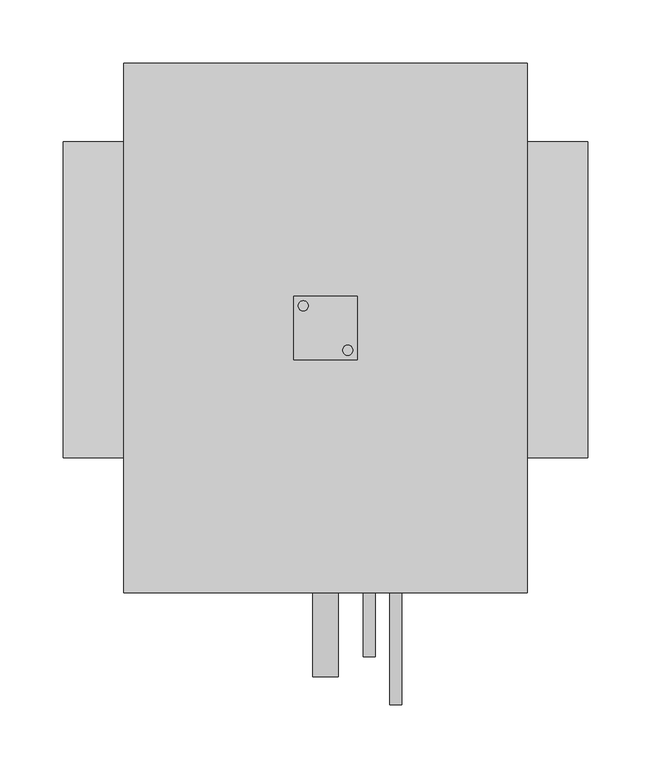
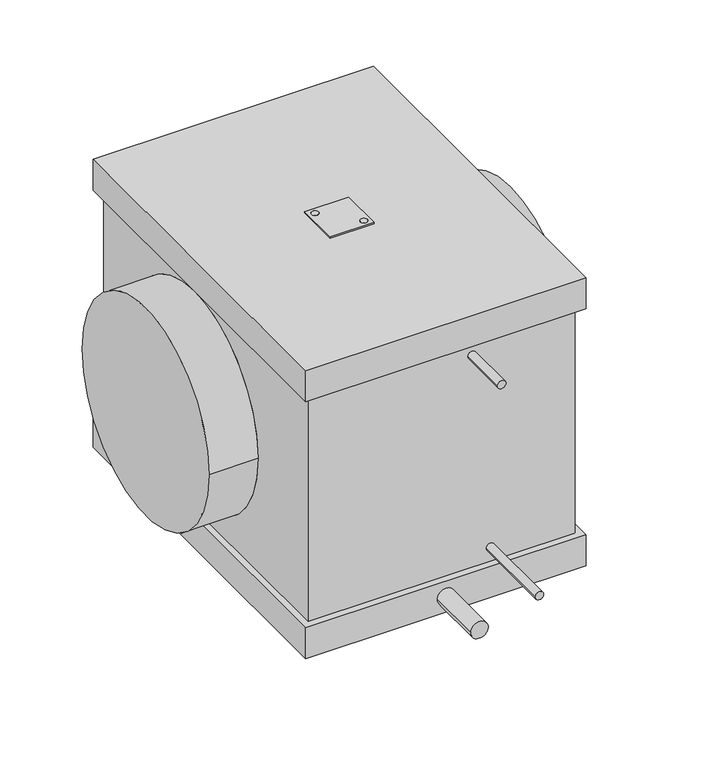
"""IFC4 building model written with IfcOpenShell, lengths in millimetres: proxy geometry, KORF_Охладитель_Фреоновый_Круглый_Левый_KFLO : KFLO 250/2."""

from ifc_helpers import new_model, si_unit, point, frame, frame_2d, origin, place, context, project, spatial, polyline, circle_curve, trimmed, segment, composite_curve, outline, extrude, source, transform, mapped, element, save
from ifc_brep_helpers import plane_surface, cylinder_surface, advanced_brep


def mechanical_equipment_053e3df5(model_context):
    return source(origin(), model_context, "Body", "SolidModel", [
        extrude(outline(composite_curve([segment(trimmed(circle_curve(frame_2d((189.9272934, -4.9254254)), 4.0), [point((185.9272934, -4.9254254))], [point((193.9272934, -4.9254254))], False, "CARTESIAN"), True, "CONTINUOUS"), segment(trimmed(circle_curve(frame_2d((189.9272934, -4.9254254)), 4.0), [point((193.9272934, -4.9254254))], [point((185.9272934, -4.9254254))], False, "CARTESIAN"), True, "CONTINUOUS")], self_intersect=False)), frame((0.0, 0.0, 173.0), z_axis=(0.0, 0.0, 1.0), x_axis=(1.0, 0.0, 0.0)), (0.0, 0.0, 1.0), 2.0),
        extrude(outline(composite_curve([segment(trimmed(circle_curve(frame_2d((225.0727066, -40.0745746)), 4.0), [point((229.0727066, -40.0745746))], [point((221.0727066, -40.0745746))], False, "CARTESIAN"), True, "CONTINUOUS"), segment(trimmed(circle_curve(frame_2d((225.0727066, -40.0745746)), 4.0), [point((221.0727066, -40.0745746))], [point((229.0727066, -40.0745746))], False, "CARTESIAN"), True, "CONTINUOUS")], self_intersect=False)), frame((0.0, 0.0, 173.0), z_axis=(0.0, 0.0, 1.0), x_axis=(1.0, 0.0, 0.0)), (0.0, 0.0, 1.0), 2.0),
        extrude(outline(polyline([(232.5, 2.5), (232.5, -47.5), (182.5, -47.5), (182.5, 2.5), (232.5, 2.5)]), holes=[composite_curve([segment(trimmed(circle_curve(frame_2d((189.9272934, -4.9254254)), 4.0), [point((185.9272934, -4.9254254))], [point((193.9272934, -4.9254254))], True, "CARTESIAN"), True, "CONTINUOUS"), segment(trimmed(circle_curve(frame_2d((189.9272934, -4.9254254)), 4.0), [point((193.9272934, -4.9254254))], [point((185.9272934, -4.9254254))], True, "CARTESIAN"), True, "CONTINUOUS")], self_intersect=False), composite_curve([segment(trimmed(circle_curve(frame_2d((225.0727066, -40.0745746)), 4.0), [point((229.0727066, -40.0745746))], [point((221.0727066, -40.0745746))], True, "CARTESIAN"), True, "CONTINUOUS"), segment(trimmed(circle_curve(frame_2d((225.0727066, -40.0745746)), 4.0), [point((221.0727066, -40.0745746))], [point((229.0727066, -40.0745746))], True, "CARTESIAN"), True, "CONTINUOUS")], self_intersect=False)]), frame((0.0, 0.0, 173.0), z_axis=(0.0, 0.0, 1.0), x_axis=(1.0, 0.0, 0.0)), (0.0, 0.0, 1.0), 2.0),
        advanced_brep(
        [(415.0, -125.0, 0.0), (415.0, 125.0, 0.0), (0.0, -125.0, 0.0), (0.0, 125.0, 0.0), (359.5, -125.0, 0.0), (359.5, 125.0, 0.0), (55.5, 125.0, 0.0), (55.5, -125.0, 0.0), (359.5, -223.5, -136.0), (359.5, 178.5, -136.0), (359.5, 178.5, 136.0), (359.5, -223.5, 136.0), (55.5, 178.5, -136.0), (55.5, -223.5, -136.0), (55.5, -223.5, 136.0), (55.5, 178.5, 136.0), (358.5, -223.5, -136.0), (358.5, -223.5, 136.0), (56.5, -223.5, 136.0), (56.5, -223.5, -136.0), (367.0, 187.0, -173.0), (367.0, -232.0, -173.0), (48.0, -232.0, -173.0), (48.0, 187.0, -173.0), (358.5, 178.5, -136.0), (56.5, 178.5, -136.0), (56.5, 178.5, 136.0), (358.5, 178.5, 136.0), (367.0, -232.0, 173.0), (367.0, 187.0, 173.0), (48.0, 187.0, 173.0), (48.0, -232.0, 173.0), (367.0, 187.0, -136.0), (367.0, -232.0, -136.0), (48.0, -232.0, -136.0), (48.0, 187.0, -136.0), (367.0, 187.0, 136.0), (367.0, -232.0, 136.0), (48.0, -232.0, 136.0), (48.0, 187.0, 136.0)],
        [
            (0, 1, circle_curve(frame((415.0, 0.0, 0.0), z_axis=(1.0, 0.0, 0.0), x_axis=(0.0, 1.0, 0.0)), 125.0)),
            (1, 0, circle_curve(frame((415.0, 0.0, 0.0), z_axis=(1.0, 0.0, 0.0), x_axis=(0.0, 1.0, 0.0)), 125.0)),
            (2, 3, circle_curve(frame((0.0, 0.0, 0.0), z_axis=(-1.0, 0.0, 0.0), x_axis=(0.0, 1.0, 0.0)), 125.0)),
            (3, 2, circle_curve(frame((0.0, 0.0, 0.0), z_axis=(-1.0, 0.0, 0.0), x_axis=(0.0, 1.0, 0.0)), 125.0)),
            (0, 4),
            (4, 5, circle_curve(frame((359.5, 0.0, 0.0), z_axis=(1.0, 0.0, 0.0), x_axis=(0.0, 1.0, 0.0)), 125.0)),
            (5, 1),
            (3, 6),
            (6, 7, circle_curve(frame((55.5, 0.0, 0.0), z_axis=(-1.0, 0.0, 0.0), x_axis=(0.0, 1.0, 0.0)), 125.0)),
            (7, 2),
            (5, 4, circle_curve(frame((359.5, 0.0, 0.0), z_axis=(1.0, 0.0, 0.0), x_axis=(0.0, 1.0, 0.0)), 125.0)),
            (7, 6, circle_curve(frame((55.5, 0.0, 0.0), z_axis=(-1.0, 0.0, 0.0), x_axis=(0.0, 1.0, 0.0)), 125.0)),
            (8, 9),
            (9, 10),
            (10, 11),
            (11, 8),
            (12, 13),
            (13, 14),
            (14, 15),
            (15, 12),
            (16, 8),
            (11, 17),
            (17, 18),
            (18, 14),
            (13, 19),
            (19, 16),
            (20, 21),
            (21, 22),
            (22, 23),
            (23, 20),
            (9, 24),
            (24, 25),
            (25, 12),
            (15, 26),
            (26, 27),
            (27, 10),
            (28, 29),
            (29, 30),
            (30, 31),
            (31, 28),
            (20, 32),
            (32, 33),
            (33, 21),
            (33, 34),
            (34, 22),
            (34, 35),
            (35, 23),
            (32, 35),
            (36, 29),
            (28, 37),
            (37, 36),
            (31, 38),
            (38, 37),
            (30, 39),
            (39, 38),
            (36, 39),
        ],
        [
            plane_surface(frame((415.0, 125.0, 0.0), z_axis=(1.0, 0.0, 0.0), x_axis=(0.0, 0.0, 1.0))),
            plane_surface(frame((0.0, 125.0, 0.0), z_axis=(-1.0, 0.0, 0.0), x_axis=(0.0, 0.0, -1.0))),
            cylinder_surface(frame((0.0, 0.0, 0.0), z_axis=(1.0, 0.0, 0.0), x_axis=(0.0, 1.0, 0.0)), 125.0),
            plane_surface(frame((359.5, -223.5, 173.0), z_axis=(1.0, 0.0, 0.0), x_axis=(0.0, 0.0, -1.0))),
            plane_surface(frame((55.5, -223.5, 173.0), z_axis=(-1.0, 0.0, 0.0), x_axis=(0.0, 0.0, 1.0))),
            plane_surface(frame((359.5, -223.5, 173.0), z_axis=(0.0, -1.0, 0.0), x_axis=(-1.0, 0.0, 0.0))),
            plane_surface(frame((359.5, -223.5, -173.0), z_axis=(0.0, 0.0, -1.0), x_axis=(-1.0, 0.0, 0.0))),
            plane_surface(frame((359.5, 178.5, -173.0), z_axis=(0.0, 1.0, 0.0), x_axis=(-1.0, 0.0, 0.0))),
            plane_surface(frame((359.5, 178.5, 173.0), z_axis=(0.0, 0.0, 1.0), x_axis=(-1.0, 0.0, 0.0))),
            plane_surface(frame((367.0, 187.0, -136.0), z_axis=(1.0, 0.0, 0.0), x_axis=(0.0, -1.0, 0.0))),
            plane_surface(frame((367.0, -232.0, -136.0), z_axis=(0.0, -1.0, 0.0), x_axis=(-1.0, 0.0, 0.0))),
            plane_surface(frame((48.0, -232.0, -136.0), z_axis=(-1.0, 0.0, 0.0), x_axis=(0.0, 1.0, 0.0))),
            plane_surface(frame((56.5, 178.5, -136.0), z_axis=(0.0, 0.0, 1.0), x_axis=(1.0, 0.0, 0.0))),
            plane_surface(frame((48.0, 187.0, -136.0), z_axis=(0.0, 1.0, 0.0), x_axis=(1.0, 0.0, 0.0))),
            plane_surface(frame((367.0, 187.0, 173.0), z_axis=(1.0, 0.0, 0.0), x_axis=(0.0, -1.0, 0.0))),
            plane_surface(frame((367.0, -232.0, 173.0), z_axis=(0.0, -1.0, 0.0), x_axis=(-1.0, 0.0, 0.0))),
            plane_surface(frame((48.0, -232.0, 173.0), z_axis=(-1.0, 0.0, 0.0), x_axis=(0.0, 1.0, 0.0))),
            plane_surface(frame((48.0, 187.0, 173.0), z_axis=(0.0, 1.0, 0.0), x_axis=(1.0, 0.0, 0.0))),
            plane_surface(frame((48.0, 187.0, 136.0), z_axis=(0.0, 0.0, -1.0), x_axis=(1.0, 0.0, 0.0))),
        ],
        [
            (0, [[1, 2]]),
            (1, [[3, 4]]),
            (2, [[-1, 5, 6, 7]]),
            (2, [[-4, 8, 9, 10]]),
            (2, [[-2, -7, 11, -5]]),
            (2, [[-3, -10, 12, -8]]),
            (3, [[13, 14, 15, 16], [-6, -11]]),
            (4, [[17, 18, 19, 20], [-9, -12]]),
            (5, [[21, -16, 22, 23, 24, -18, 25, 26]]),
            (6, [[27, 28, 29, 30]]),
            (7, [[31, 32, 33, -20, 34, 35, 36, -14]]),
            (8, [[37, 38, 39, 40]]),
            (9, [[41, 42, 43, -27]]),
            (10, [[-43, 44, 45, -28]]),
            (11, [[-45, 46, 47, -29]]),
            (12, [[-42, 48, -46, -44], [-13, -21, -26, -25, -17, -33, -32, -31]]),
            (13, [[-41, -30, -47, -48]]),
            (14, [[49, -37, 50, 51]]),
            (15, [[-50, -40, 52, 53]]),
            (16, [[-52, -39, 54, 55]]),
            (17, [[-49, 56, -54, -38]]),
            (18, [[-51, -53, -55, -56], [-15, -36, -35, -34, -19, -24, -23, -22]]),
        ],
    ),
        extrude(outline(composite_curve([segment(trimmed(circle_curve(frame_2d((-119.0, 263.0)), 4.76), [point((-119.0, 258.24))], [point((-119.0, 267.76))], False, "CARTESIAN"), True, "CONTINUOUS"), segment(trimmed(circle_curve(frame_2d((-119.0, 263.0)), 4.76), [point((-119.0, 267.76))], [point((-119.0, 258.24))], False, "CARTESIAN"), True, "CONTINUOUS")], self_intersect=False)), frame((0.0, -320.5, 0.0), z_axis=(0.0, 1.0, 0.0), x_axis=(0.0, 0.0, 1.0)), (0.0, 0.0, 1.0), 97.0),
        extrude(outline(composite_curve([segment(trimmed(circle_curve(frame_2d((119.0, 242.0)), 4.76), [point((119.0, 237.24))], [point((119.0, 246.76))], False, "CARTESIAN"), True, "CONTINUOUS"), segment(trimmed(circle_curve(frame_2d((119.0, 242.0)), 4.76), [point((119.0, 246.76))], [point((119.0, 237.24))], False, "CARTESIAN"), True, "CONTINUOUS")], self_intersect=False)), frame((0.0, -282.5, 0.0), z_axis=(0.0, 1.0, 0.0), x_axis=(0.0, 0.0, 1.0)), (0.0, 0.0, 1.0), 59.0),
        extrude(outline(composite_curve([segment(trimmed(circle_curve(frame_2d((-154.0, 207.5)), 10.0), [point((-154.0, 197.5))], [point((-154.0, 217.5))], False, "CARTESIAN"), True, "CONTINUOUS"), segment(trimmed(circle_curve(frame_2d((-154.0, 207.5)), 10.0), [point((-154.0, 217.5))], [point((-154.0, 197.5))], False, "CARTESIAN"), True, "CONTINUOUS")], self_intersect=False)), frame((0.0, -298.5, 0.0), z_axis=(0.0, 1.0, 0.0), x_axis=(0.0, 0.0, 1.0)), (0.0, 0.0, 1.0), 66.5),
    ])


if __name__ == "__main__":
    model = new_model("IFC4")
    model_context = context("Model", 3, world=origin())
    ifc_project = project(units=[si_unit("LENGTHUNIT", "METRE", prefix="MILLI")], contexts=[model_context])
    site = spatial("IfcSite", under=ifc_project)
    building = spatial("IfcBuilding", under=site)
    placement = place(None, origin())
    mechanical_equipment_shape = mechanical_equipment_053e3df5(model_context)
    element("IfcBuildingElementProxy", 1, Name="KORF_Охладитель_Фреоновый_Круглый_Левый_KFLO : KFLO 250/2", ObjectType="KORF_Охладитель_Фреоновый_Круглый_Левый_KFLO : KFLO 250/2", at=placement, inside=building, context=model_context, shape_type="MappedRepresentation", body=[
        mapped(mechanical_equipment_shape, transform((0.0, 0.0, 0.0), x_axis=(1.0, 0.0, 0.0), y_axis=(0.0, 1.0, 0.0), z_axis=(0.0, 0.0, 1.0))),
    ])
    save(model, "model.ifc")
